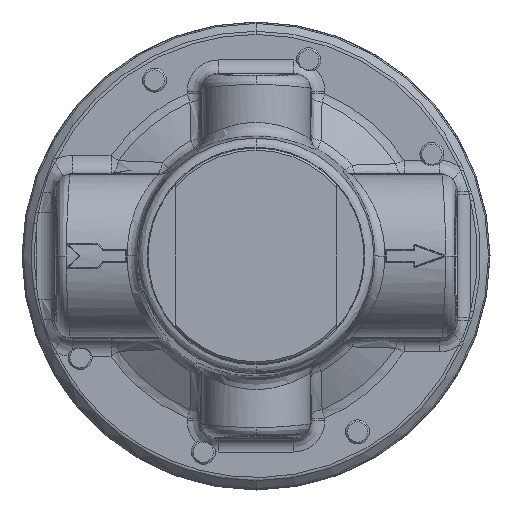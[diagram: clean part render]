
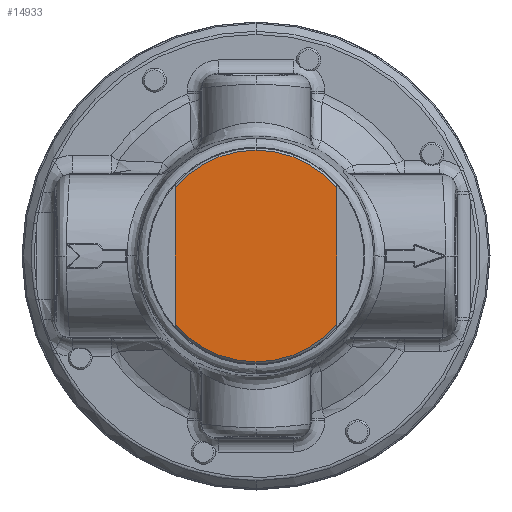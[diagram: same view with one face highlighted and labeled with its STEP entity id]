
A CAD part, front view. The second image highlights one B-rep face of the part: STEP entity #14933.
In plain terms, the highlighted planar face has unit normal (0, -1, 0).
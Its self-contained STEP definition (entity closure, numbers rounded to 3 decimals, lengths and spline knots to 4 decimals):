
#6609 = EDGE_CURVE ( 'NONE', #10410, #10399, #9066, .T. ) ;
#6611 = EDGE_CURVE ( 'NONE', #10809, #10399, #27691, .T. ) ;
#6613 = EDGE_CURVE ( 'NONE', #10843, #10531, #9071, .T. ) ;
#6615 = EDGE_CURVE ( 'NONE', #10531, #10410, #27752, .T. ) ;
#9066 = CIRCLE ( 'NONE', #9076, 0.7325 ) ;
#9071 = CIRCLE ( 'NONE', #9082, 0.7325 ) ;
#9074 = VECTOR ( 'NONE', #27748, 39.3701 ) ;
#9076 = AXIS2_PLACEMENT_3D ( 'NONE', #27741, #27743, #27744 ) ;
#9078 = VECTOR ( 'NONE', #27760, 39.3701 ) ;
#9082 = AXIS2_PLACEMENT_3D ( 'NONE', #27753, #27755, #27757 ) ;
#9207 = AXIS2_PLACEMENT_3D ( 'NONE', #26077, #26086, #26088 ) ;
#10399 = VERTEX_POINT ( 'NONE', #25822 ) ;
#10410 = VERTEX_POINT ( 'NONE', #25843 ) ;
#10531 = VERTEX_POINT ( 'NONE', #26061 ) ;
#10809 = VERTEX_POINT ( 'NONE', #26496 ) ;
#10843 = VERTEX_POINT ( 'NONE', #26530 ) ;
#13561 = ORIENTED_EDGE ( 'NONE', *, *, #6615, .F. ) ;
#13562 = ORIENTED_EDGE ( 'NONE', *, *, #6613, .F. ) ;
#13563 = ORIENTED_EDGE ( 'NONE', *, *, #48540, .F. ) ;
#13564 = ORIENTED_EDGE ( 'NONE', *, *, #6611, .T. ) ;
#13565 = ORIENTED_EDGE ( 'NONE', *, *, #6609, .F. ) ;
#14933 = ADVANCED_FACE ( 'NONE', ( #26080 ), #26082, .T. ) ;
#23785 = CARTESIAN_POINT ( 'NONE',  ( 0., -1.906, 0. ) ) ;
#23786 = DIRECTION ( 'NONE',  ( 0., 1., 0. ) ) ;
#23787 = DIRECTION ( 'NONE',  ( 0., 0., 1. ) ) ;
#25822 = CARTESIAN_POINT ( 'NONE',  ( -0.5587, -1.906, -0.4737 ) ) ;
#25843 = CARTESIAN_POINT ( 'NONE',  ( 0.5587, -1.906, -0.4737 ) ) ;
#26061 = CARTESIAN_POINT ( 'NONE',  ( 0.5587, -1.906, 0.4737 ) ) ;
#26077 = CARTESIAN_POINT ( 'NONE',  ( 0., -1.906, 0. ) ) ;
#26080 = FACE_OUTER_BOUND ( 'NONE', #47805, .T. ) ;
#26082 = PLANE ( 'NONE',  #9207 ) ;
#26086 = DIRECTION ( 'NONE',  ( 0., -1., 0. ) ) ;
#26088 = DIRECTION ( 'NONE',  ( 1., 0., 0. ) ) ;
#26496 = CARTESIAN_POINT ( 'NONE',  ( -0.5587, -1.906, 0.4737 ) ) ;
#26530 = CARTESIAN_POINT ( 'NONE',  ( 0., -1.906, 0.7325 ) ) ;
#27691 = LINE ( 'NONE', #27731, #9074 ) ;
#27731 = CARTESIAN_POINT ( 'NONE',  ( -0.5587, -1.906, -0.7475 ) ) ;
#27741 = CARTESIAN_POINT ( 'NONE',  ( 0., -1.906, 0. ) ) ;
#27743 = DIRECTION ( 'NONE',  ( 0., 1., 0. ) ) ;
#27744 = DIRECTION ( 'NONE',  ( 0., 0., 1. ) ) ;
#27746 = CARTESIAN_POINT ( 'NONE',  ( 0.5587, -1.906, -0.7475 ) ) ;
#27748 = DIRECTION ( 'NONE',  ( 0., 0., -1. ) ) ;
#27752 = LINE ( 'NONE', #27746, #9078 ) ;
#27753 = CARTESIAN_POINT ( 'NONE',  ( 0., -1.906, 0. ) ) ;
#27755 = DIRECTION ( 'NONE',  ( 0., 1., 0. ) ) ;
#27757 = DIRECTION ( 'NONE',  ( 0., 0., 1. ) ) ;
#27760 = DIRECTION ( 'NONE',  ( 0., 0., -1. ) ) ;
#42518 = CIRCLE ( 'NONE', #42521, 0.7325 ) ;
#42521 = AXIS2_PLACEMENT_3D ( 'NONE', #23785, #23786, #23787 ) ;
#47805 = EDGE_LOOP ( 'NONE', ( #13561, #13562, #13563, #13564, #13565 ) ) ;
#48540 = EDGE_CURVE ( 'NONE', #10809, #10843, #42518, .T. ) ;
